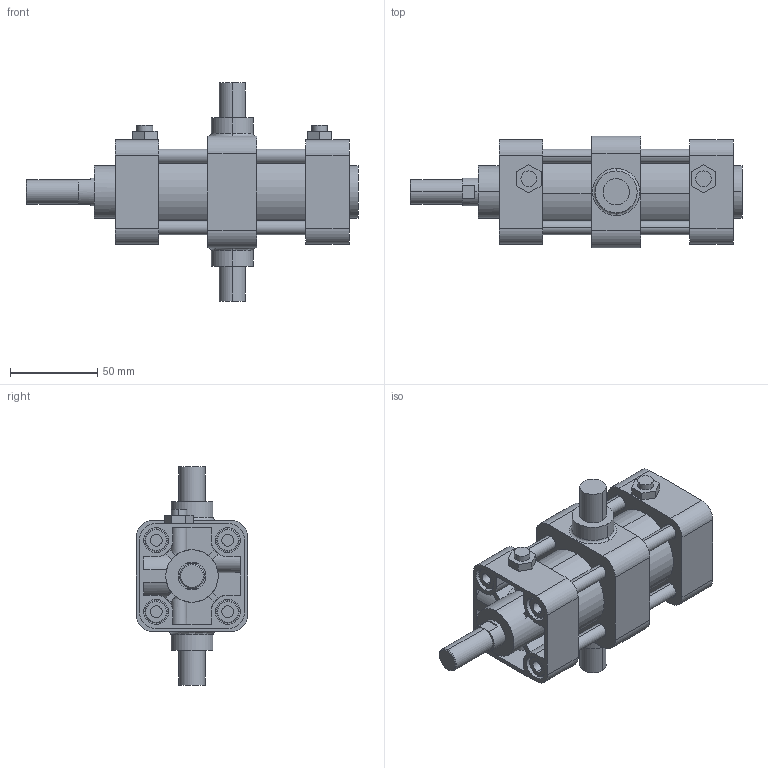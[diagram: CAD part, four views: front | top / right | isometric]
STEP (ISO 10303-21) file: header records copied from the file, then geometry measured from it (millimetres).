
FILE_DESCRIPTION (( 'STEP AP203' ), '1' );
FILE_NAME ('KG2-40-50-T.STEP', '2016-04-01T08:10:21', ( '' ), ( '' ), 'SwSTEP 2.0', 'SolidWorks 2014', '' );
FILE_SCHEMA (( 'CONFIG_CONTROL_DESIGN' ));
Length unit declared in the file: millimetre
Products named in the file (7): KGLH2-40-50; KG2-40-After; K-40-T; KG2-40-50-T
Assembly tree (16 placements, depth 2):
  KG2-40-50-T
    KG2-40-After
    KGLH2-40-50
    (unnamed)
    (unnamed)  x4
    (unnamed)  x8
    K-40-T
Bounding box: 190 x 64 x 125 mm (x, y, z)
Volume: 381742.3 mm3; surface area: 105438.8 mm2
Topology: 16 solids, 21 shells, 365 faces, 843 edges, 539 vertices
Faces by surface type: cylinder 152, plane 151, torus 32, cone 26, bspline 4
Entity records: 10024 total; most frequent: CARTESIAN_POINT 2499, DIRECTION 1423, ORIENTED_EDGE 1306, EDGE_CURVE 653, AXIS2_PLACEMENT_3D 538, VERTEX_POINT 429, LINE 347, VECTOR 347
